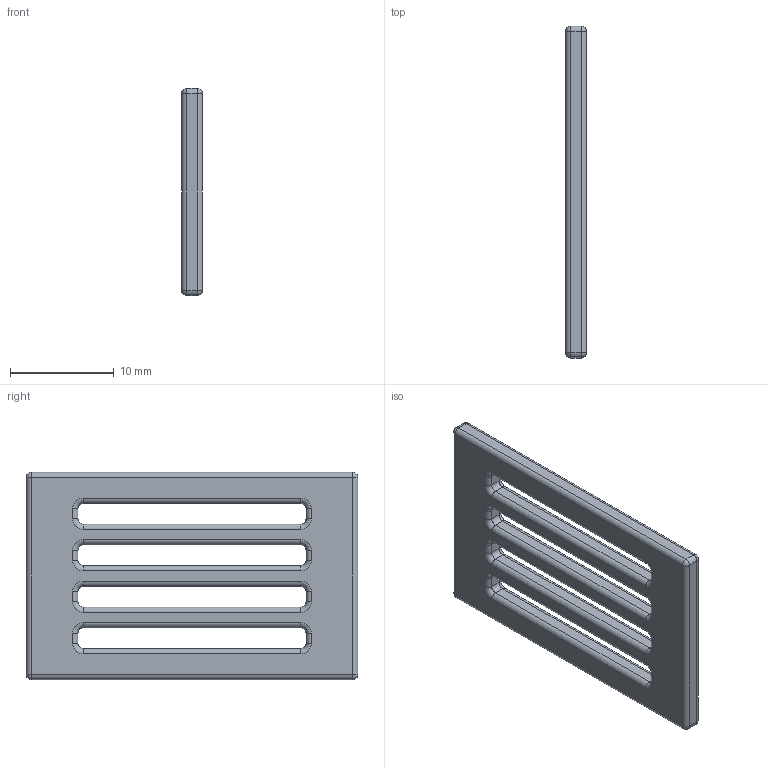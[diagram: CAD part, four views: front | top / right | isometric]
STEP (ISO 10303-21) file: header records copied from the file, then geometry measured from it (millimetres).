
FILE_DESCRIPTION(('Open CASCADE Model'),'2;1');
FILE_NAME('Open CASCADE Shape Model','2026-11-19T06:39:21',('Author'),( 'Open CASCADE'),'Open CASCADE STEP processor 8.0','Open CASCADE 8.0' ,'Unknown');
FILE_SCHEMA(('AUTOMOTIVE_DESIGN { 1 0 10303 214 1 1 1 1 }'));
Length unit declared in the file: millimetre
Products named in the file (1): Open CASCADE STEP translator 8.0 13
Bounding box: 2 x 32 x 20 mm (x, y, z)
Volume: 897.8 mm3; surface area: 1388.2 mm2
Topology: 1 solids, 1 shells, 122 faces, 280 edges, 152 vertices
Faces by surface type: cylinder 60, torus 32, plane 22, sphere 8
Entity records: 6782 total; most frequent: CARTESIAN_POINT 1323, DIRECTION 1042, ORIENTED_EDGE 544, PCURVE 544, DEFINITIONAL_REPRESENTATION 544, LINE 472, VECTOR 472, AXIS2_PLACEMENT_3D 275
